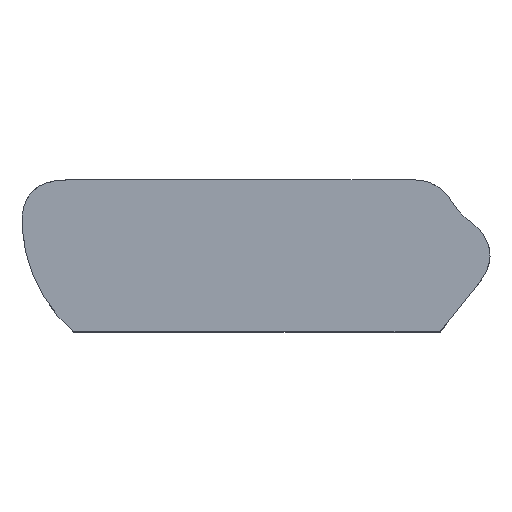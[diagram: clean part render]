
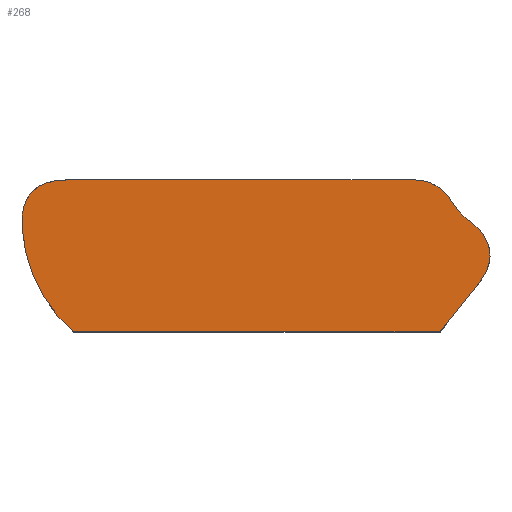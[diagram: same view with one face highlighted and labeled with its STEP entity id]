
A CAD part, top view. The second image highlights one B-rep face of the part: STEP entity #268.
In plain terms, the highlighted planar face has unit normal (0, 0, 1).
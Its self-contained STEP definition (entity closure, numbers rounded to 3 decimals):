
#25=LINE('',#413,#45);
#31=LINE('',#436,#51);
#32=LINE('',#443,#52);
#45=VECTOR('',#329,1000.);
#51=VECTOR('',#341,1000.);
#52=VECTOR('',#344,1000.);
#67=B_SPLINE_CURVE_WITH_KNOTS('',3,(#457,#458,#459,#460),.UNSPECIFIED.,.F.,.F.,(4,4),(0.,1.),.UNSPECIFIED.);
#68=B_SPLINE_CURVE_WITH_KNOTS('',3,(#461,#462,#463,#464),.UNSPECIFIED.,.F.,.F.,(4,4),(0.,1.),.UNSPECIFIED.);
#69=B_SPLINE_CURVE_WITH_KNOTS('',3,(#465,#466,#467,#468),.UNSPECIFIED.,.F.,.F.,(4,4),(0.,1.),.UNSPECIFIED.);
#107=ORIENTED_EDGE('',*,*,#160,.F.);
#108=ORIENTED_EDGE('',*,*,#175,.T.);
#109=ORIENTED_EDGE('',*,*,#162,.T.);
#110=ORIENTED_EDGE('',*,*,#169,.T.);
#111=ORIENTED_EDGE('',*,*,#171,.T.);
#112=ORIENTED_EDGE('',*,*,#176,.T.);
#113=ORIENTED_EDGE('',*,*,#173,.T.);
#114=ORIENTED_EDGE('',*,*,#177,.T.);
#160=EDGE_CURVE('',#197,#198,#25,.T.);
#162=EDGE_CURVE('',#199,#200,#213,.T.);
#169=EDGE_CURVE('',#200,#203,#31,.T.);
#171=EDGE_CURVE('',#203,#204,#32,.T.);
#173=EDGE_CURVE('',#206,#205,#214,.T.);
#175=EDGE_CURVE('',#197,#199,#67,.T.);
#176=EDGE_CURVE('',#204,#206,#68,.T.);
#177=EDGE_CURVE('',#205,#198,#69,.T.);
#197=VERTEX_POINT('',#412);
#198=VERTEX_POINT('',#414);
#199=VERTEX_POINT('',#421);
#200=VERTEX_POINT('',#422);
#203=VERTEX_POINT('',#435);
#204=VERTEX_POINT('',#442);
#205=VERTEX_POINT('',#449);
#206=VERTEX_POINT('',#451);
#213=CIRCLE('',#297,10.);
#214=CIRCLE('',#301,5.);
#223=EDGE_LOOP('',(#107,#108,#109,#110,#111,#112,#113,#114));
#241=FACE_BOUND('',#223,.T.);
#256=PLANE('',#302);
#268=ADVANCED_FACE('',(#241),#256,.T.);
#297=AXIS2_PLACEMENT_3D('',#420,#332,#333);
#301=AXIS2_PLACEMENT_3D('',#450,#347,#348);
#302=AXIS2_PLACEMENT_3D('',#456,#349,#350);
#329=DIRECTION('',(1.,0.,0.));
#332=DIRECTION('',(0.,0.,1.));
#333=DIRECTION('',(1.,0.,0.));
#341=DIRECTION('',(1.,0.,0.));
#344=DIRECTION('',(0.625,0.781,0.));
#347=DIRECTION('',(0.,0.,-1.));
#348=DIRECTION('',(1.,0.,0.));
#349=DIRECTION('',(0.,0.,1.));
#350=DIRECTION('',(1.,0.,0.));
#412=CARTESIAN_POINT('',(-106.982,-22.5,55.5));
#413=CARTESIAN_POINT('',(-84.296,-22.5,55.5));
#414=CARTESIAN_POINT('',(-84.278,-22.5,55.5));
#420=CARTESIAN_POINT('',(-100.,-25.,55.5));
#421=CARTESIAN_POINT('',(-109.974,-25.714,55.5));
#422=CARTESIAN_POINT('',(-106.614,-32.5,55.5));
#435=CARTESIAN_POINT('',(-82.5,-32.5,55.5));
#436=CARTESIAN_POINT('',(-84.375,-32.5,55.5));
#442=CARTESIAN_POINT('',(-80.058,-29.447,55.5));
#443=CARTESIAN_POINT('',(-80.,-29.375,55.5));
#449=CARTESIAN_POINT('',(-81.736,-23.906,55.5));
#450=CARTESIAN_POINT('',(-77.5,-21.25,55.5));
#451=CARTESIAN_POINT('',(-80.563,-25.202,55.5));
#456=CARTESIAN_POINT('',(0.,-17.657,55.5));
#457=CARTESIAN_POINT('',(-106.982,-22.5,55.5));
#458=CARTESIAN_POINT('',(-109.13,-22.5,55.5));
#459=CARTESIAN_POINT('',(-110.128,-23.571,55.5));
#460=CARTESIAN_POINT('',(-109.974,-25.714,55.5));
#461=CARTESIAN_POINT('',(-80.058,-29.447,55.5));
#462=CARTESIAN_POINT('',(-78.789,-27.861,55.5));
#463=CARTESIAN_POINT('',(-78.957,-26.446,55.5));
#464=CARTESIAN_POINT('',(-80.563,-25.202,55.5));
#465=CARTESIAN_POINT('',(-81.736,-23.906,55.5));
#466=CARTESIAN_POINT('',(-82.324,-22.969,55.5));
#467=CARTESIAN_POINT('',(-83.171,-22.5,55.5));
#468=CARTESIAN_POINT('',(-84.278,-22.5,55.5));
